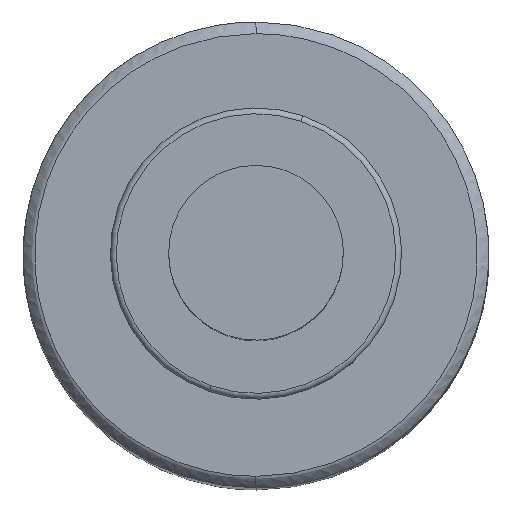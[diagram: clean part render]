
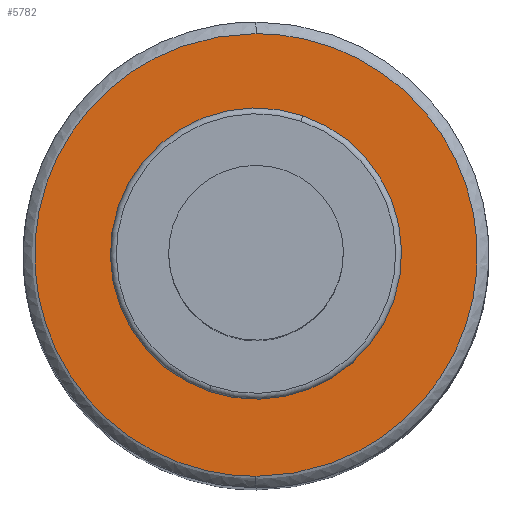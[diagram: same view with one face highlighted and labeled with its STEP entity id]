
A CAD part, top view. The second image highlights one B-rep face of the part: STEP entity #5782.
In plain terms, the highlighted planar face has unit normal (0, 0, 1) as drawn and (0, 1, 0) by its records, which use the part's own axes.
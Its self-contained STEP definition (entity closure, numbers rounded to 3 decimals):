
#269 = CARTESIAN_POINT ( 'NONE',  ( 0.497, 20., 3.8 ) ) ;
#543 = EDGE_CURVE ( 'NONE', #12295, #10438, #7462, .T. ) ;
#883 = CARTESIAN_POINT ( 'NONE',  ( -1.913, 20., 3.321 ) ) ;
#967 = AXIS2_PLACEMENT_3D ( 'NONE', #7915, #5849, #19590 ) ;
#987 = CARTESIAN_POINT ( 'NONE',  ( 0., 20., 0. ) ) ;
#1016 = CARTESIAN_POINT ( 'NONE',  ( -3.321, 20., -1.913 ) ) ;
#1260 = CARTESIAN_POINT ( 'NONE',  ( -2.336, 20., -3.038 ) ) ;
#1672 = ORIENTED_EDGE ( 'NONE', *, *, #543, .T. ) ;
#3206 = CARTESIAN_POINT ( 'NONE',  ( -3.701, 20., 0.995 ) ) ;
#4034 = FACE_OUTER_BOUND ( 'NONE', #12148, .T. ) ;
#4285 = CARTESIAN_POINT ( 'NONE',  ( 3.321, 20., 1.913 ) ) ;
#4407 = CARTESIAN_POINT ( 'NONE',  ( 2.336, 20., -3.038 ) ) ;
#4926 = CARTESIAN_POINT ( 'NONE',  ( 0., 20., -3.8 ) ) ;
#5782 = ADVANCED_FACE ( 'NONE', ( #4034, #17654 ), #19968, .T. ) ;
#5803 = ORIENTED_EDGE ( 'NONE', *, *, #21938, .F. ) ;
#5849 = DIRECTION ( 'NONE',  ( 0., 1., 0. ) ) ;
#6056 = VERTEX_POINT ( 'NONE', #23476 ) ;
#6408 = EDGE_CURVE ( 'NONE', #10438, #12295, #7142, .T. ) ;
#6712 = CARTESIAN_POINT ( 'NONE',  ( 0., 20., -3.8 ) ) ;
#6937 = DIRECTION ( 'NONE',  ( 0., 0., 1. ) ) ;
#7091 = CARTESIAN_POINT ( 'NONE',  ( -1.913, 20., -3.321 ) ) ;
#7142 = B_SPLINE_CURVE_WITH_KNOTS ( 'NONE', 3,
 ( #15711, #269, #8040, #8162, #23604, #11809, #4285, #9854, #17782, #15838, #13893, #11938, #12318, #4407, #16214, #10746, #16474, #4926 ),
 .UNSPECIFIED., .F., .F.,
 ( 4, 2, 2, 2, 2, 2, 2, 2, 4 ),
 ( 0., 0.063, 0.125, 0.188, 0.25, 0.313, 0.375, 0.438, 0.5 ),
 .UNSPECIFIED. ) ;
#7462 = B_SPLINE_CURVE_WITH_KNOTS ( 'NONE', 3,
 ( #6712, #15015, #14632, #7091, #1260, #18776, #1016, #20583, #22529, #10724, #3206, #8908, #13189, #11113, #883, #20844, #21097, #11240 ),
 .UNSPECIFIED., .F., .F.,
 ( 4, 2, 2, 2, 2, 2, 2, 2, 4 ),
 ( 0.5, 0.563, 0.625, 0.688, 0.75, 0.813, 0.875, 0.938, 1. ),
 .UNSPECIFIED. ) ;
#7915 = CARTESIAN_POINT ( 'NONE',  ( 0., 20., 0. ) ) ;
#8040 = CARTESIAN_POINT ( 'NONE',  ( 0.995, 20., 3.701 ) ) ;
#8162 = CARTESIAN_POINT ( 'NONE',  ( 1.913, 20., 3.321 ) ) ;
#8908 = CARTESIAN_POINT ( 'NONE',  ( -3.321, 20., 1.913 ) ) ;
#9417 = EDGE_LOOP ( 'NONE', ( #5803, #19669 ) ) ;
#9854 = CARTESIAN_POINT ( 'NONE',  ( 3.701, 20., 0.995 ) ) ;
#10180 = DIRECTION ( 'NONE',  ( 0., 1., 0. ) ) ;
#10438 = VERTEX_POINT ( 'NONE', #13136 ) ;
#10593 = ORIENTED_EDGE ( 'NONE', *, *, #6408, .T. ) ;
#10724 = CARTESIAN_POINT ( 'NONE',  ( -3.8, 20., 0.497 ) ) ;
#10746 = CARTESIAN_POINT ( 'NONE',  ( 0.995, 20., -3.701 ) ) ;
#11113 = CARTESIAN_POINT ( 'NONE',  ( -2.336, 20., 3.038 ) ) ;
#11240 = CARTESIAN_POINT ( 'NONE',  ( 0., 20., 3.8 ) ) ;
#11809 = CARTESIAN_POINT ( 'NONE',  ( 3.038, 20., 2.336 ) ) ;
#11938 = CARTESIAN_POINT ( 'NONE',  ( 3.321, 20., -1.913 ) ) ;
#12143 = CARTESIAN_POINT ( 'NONE',  ( 0., 20., 0. ) ) ;
#12148 = EDGE_LOOP ( 'NONE', ( #10593, #1672 ) ) ;
#12295 = VERTEX_POINT ( 'NONE', #19086 ) ;
#12318 = CARTESIAN_POINT ( 'NONE',  ( 3.038, 20., -2.336 ) ) ;
#13136 = CARTESIAN_POINT ( 'NONE',  ( 0., 20., 3.8 ) ) ;
#13189 = CARTESIAN_POINT ( 'NONE',  ( -3.038, 20., 2.336 ) ) ;
#13893 = CARTESIAN_POINT ( 'NONE',  ( 3.701, 20., -0.995 ) ) ;
#14340 = DIRECTION ( 'NONE',  ( 0., 1., 0. ) ) ;
#14598 = AXIS2_PLACEMENT_3D ( 'NONE', #12143, #10180, #15788 ) ;
#14632 = CARTESIAN_POINT ( 'NONE',  ( -0.995, 20., -3.701 ) ) ;
#15015 = CARTESIAN_POINT ( 'NONE',  ( -0.497, 20., -3.8 ) ) ;
#15434 = CIRCLE ( 'NONE', #20811, 1.55 ) ;
#15711 = CARTESIAN_POINT ( 'NONE',  ( 0., 20., 3.8 ) ) ;
#15788 = DIRECTION ( 'NONE',  ( 0., 0., 1. ) ) ;
#15838 = CARTESIAN_POINT ( 'NONE',  ( 3.8, 20., -0.497 ) ) ;
#16214 = CARTESIAN_POINT ( 'NONE',  ( 1.913, 20., -3.321 ) ) ;
#16474 = CARTESIAN_POINT ( 'NONE',  ( 0.497, 20., -3.8 ) ) ;
#17654 = FACE_BOUND ( 'NONE', #9417, .T. ) ;
#17782 = CARTESIAN_POINT ( 'NONE',  ( 3.8, 20., 0.497 ) ) ;
#18776 = CARTESIAN_POINT ( 'NONE',  ( -3.038, 20., -2.336 ) ) ;
#19086 = CARTESIAN_POINT ( 'NONE',  ( 0., 20., -3.8 ) ) ;
#19590 = DIRECTION ( 'NONE',  ( 0., 0., 1. ) ) ;
#19669 = ORIENTED_EDGE ( 'NONE', *, *, #21147, .F. ) ;
#19942 = CARTESIAN_POINT ( 'NONE',  ( 0., 20., 1.55 ) ) ;
#19968 = PLANE ( 'NONE',  #967 ) ;
#20560 = VERTEX_POINT ( 'NONE', #19942 ) ;
#20583 = CARTESIAN_POINT ( 'NONE',  ( -3.701, 20., -0.995 ) ) ;
#20811 = AXIS2_PLACEMENT_3D ( 'NONE', #987, #14340, #6937 ) ;
#20844 = CARTESIAN_POINT ( 'NONE',  ( -0.995, 20., 3.701 ) ) ;
#21097 = CARTESIAN_POINT ( 'NONE',  ( -0.498, 20., 3.8 ) ) ;
#21147 = EDGE_CURVE ( 'NONE', #6056, #20560, #21215, .T. ) ;
#21215 = CIRCLE ( 'NONE', #14598, 1.55 ) ;
#21938 = EDGE_CURVE ( 'NONE', #20560, #6056, #15434, .T. ) ;
#22529 = CARTESIAN_POINT ( 'NONE',  ( -3.8, 20., -0.497 ) ) ;
#23476 = CARTESIAN_POINT ( 'NONE',  ( 0., 20., -1.55 ) ) ;
#23604 = CARTESIAN_POINT ( 'NONE',  ( 2.336, 20., 3.038 ) ) ;
